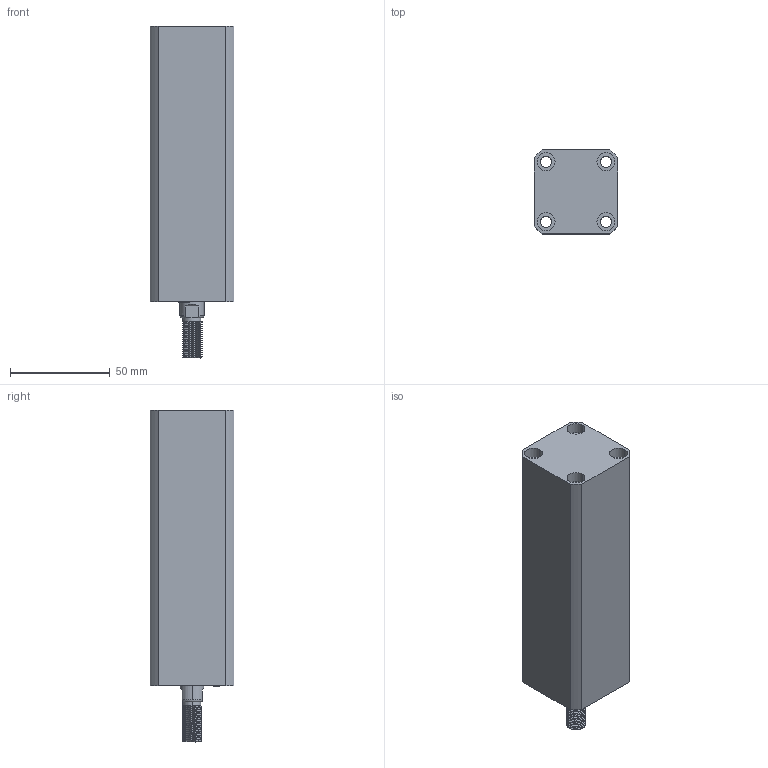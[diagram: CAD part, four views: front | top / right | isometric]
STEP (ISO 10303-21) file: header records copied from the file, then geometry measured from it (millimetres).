
FILE_DESCRIPTION (( 'STEP AP214' ), '1' );
FILE_NAME ('chtb-sd20x95w_asm.STEP', '2018-05-16T09:56:05', ( 'Windows' ), ( 'Microsoft' ), 'SwSTEP 2.0', 'SolidWorks 2015', '' );
FILE_SCHEMA (( 'AUTOMOTIVE_DESIGN' ));
Length unit declared in the file: millimetre
Products named in the file (4): QG; CHTB-SD20X95WHSG; CHTB-SD20X95NBT; chtb-sd20x95w_asm
Assembly tree (3 placements, depth 2):
  chtb-sd20x95w_asm
    CHTB-SD20X95NBT
    CHTB-SD20X95WHSG
    QG
Bounding box: 42 x 42 x 166 mm (x, y, z)
Volume: 204213.7 mm3; surface area: 56588 mm2
Topology: 3 solids, 3 shells, 234 faces, 624 edges, 415 vertices
Faces by surface type: cylinder 139, plane 40, torus 25, bspline 21, cone 9
Entity records: 13734 total; most frequent: CARTESIAN_POINT 8172, ORIENTED_EDGE 1240, DIRECTION 1039, EDGE_CURVE 620, AXIS2_PLACEMENT_3D 431, VERTEX_POINT 415, EDGE_LOOP 271, ADVANCED_FACE 234
